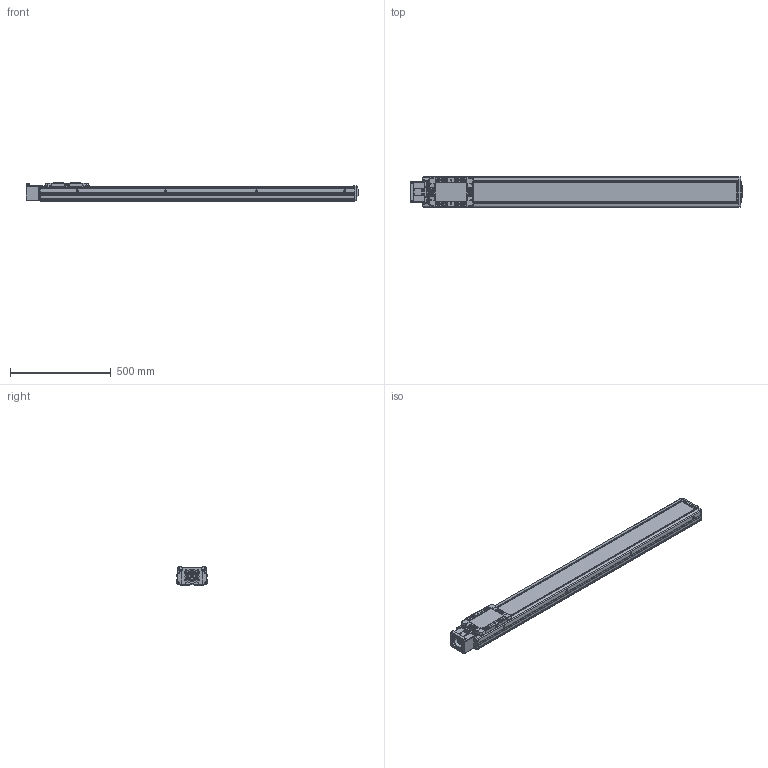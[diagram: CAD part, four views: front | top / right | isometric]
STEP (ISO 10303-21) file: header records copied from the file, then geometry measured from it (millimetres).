
FILE_DESCRIPTION(('STEP AP214'),'1');
FILE_NAME('Z:/Web/3D/SAN150/2013.04 (STP.)/SAN150ㅁㅁ-1300S.stp','2013-05-07T08:32:06',(' '),(' '),'Spatial InterOp 3D',' ',' ');
FILE_SCHEMA(('automotive_design'));
Length unit declared in the file: millimetre
Products named in the file (79): SLBL-SAN150; SLCV-SAN150; FHCS M4.0 x 8.0; BHCS M4.0 x 10.0; SFX-SAN150; RRCV-SAN150; FRBL-SAN150; Spacer; RN15; FRCV-SAN150; Screw 20; BASE-SAN150-000L ; SUS COVER; 스크루 : Round - M5.0 x 6.0; BHCS M3.0 x 6.0; SSFX-SAN65; CPLCV-SAN65; SDWA47C(2); SDWA47C(3-1); SDWA47C(3); SDWA47C(1); SDWA47C(4); SDWA47C(5); MTHZ-SAN150-80
Bounding box: 1649 x 150 x 90 mm (x, y, z)
Volume: 8587725.9 mm3; surface area: 1602510.7 mm2
Topology: 79 solids, 79 shells, 3103 faces, 8057 edges, 5175 vertices
Faces by surface type: cylinder 1283, plane 1266, cone 445, sphere 64, bspline 29, torus 16
Entity records: 125702 total; most frequent: CARTESIAN_POINT 21032, DIRECTION 17543, ORIENTED_EDGE 15826, EDGE_CURVE 7913, AXIS2_PLACEMENT_3D 6665, VERTEX_POINT 5175, LINE 4213, VECTOR 4213
